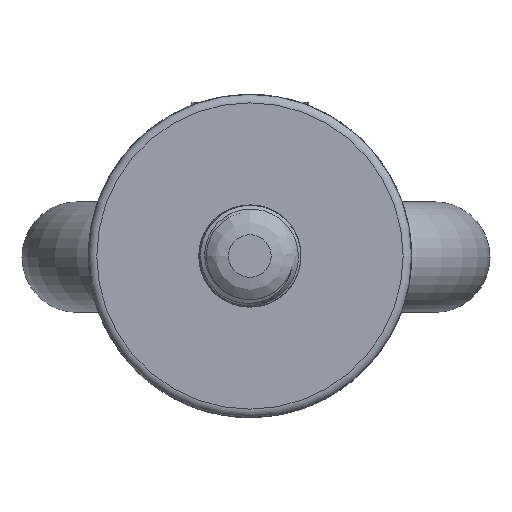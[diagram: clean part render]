
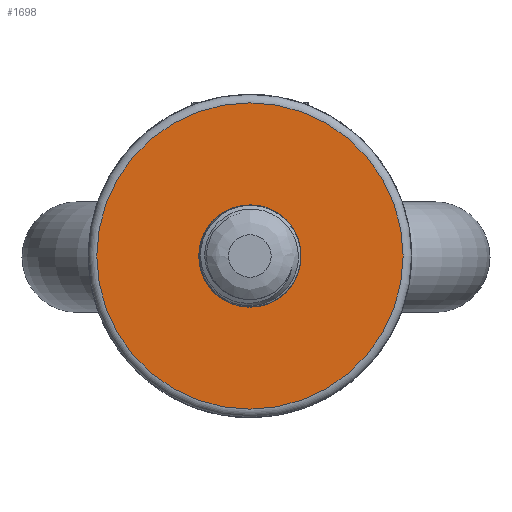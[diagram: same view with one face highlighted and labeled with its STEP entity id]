
A CAD part, front view. The second image highlights one B-rep face of the part: STEP entity #1698.
In plain terms, the highlighted planar face has unit normal (0, -1, 0).
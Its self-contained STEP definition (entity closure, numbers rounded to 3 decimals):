
#199=PLANE('',#5123);
#1698=ADVANCED_FACE('',(#1996,#1997),#199,.F.);
#1996=FACE_BOUND('',#2118,.T.);
#1997=FACE_BOUND('',#2119,.T.);
#2118=EDGE_LOOP('',(#2793));
#2119=EDGE_LOOP('',(#2794));
#2793=ORIENTED_EDGE('',*,*,#4518,.F.);
#2794=ORIENTED_EDGE('',*,*,#4517,.T.);
#4005=VERTEX_POINT('',#8761);
#4006=VERTEX_POINT('',#8764);
#4517=EDGE_CURVE('',#4005,#4005,#4965,.T.);
#4518=EDGE_CURVE('',#4006,#4006,#4966,.T.);
#4965=CIRCLE('',#5120,18.);
#4966=CIRCLE('',#5122,5.8);
#5120=AXIS2_PLACEMENT_3D('',#8760,#5667,#5668);
#5122=AXIS2_PLACEMENT_3D('',#8763,#5671,#5672);
#5123=AXIS2_PLACEMENT_3D('',#8765,#5673,#5674);
#5667=DIRECTION('',(0.,-1.,0.));
#5668=DIRECTION('',(1.,0.,0.));
#5671=DIRECTION('',(0.,-1.,0.));
#5672=DIRECTION('',(1.,0.,0.));
#5673=DIRECTION('',(0.,1.,0.));
#5674=DIRECTION('',(-1.,0.,0.));
#8760=CARTESIAN_POINT('',(0.,5.4,0.));
#8761=CARTESIAN_POINT('',(18.,5.4,0.));
#8763=CARTESIAN_POINT('',(0.,5.4,0.));
#8764=CARTESIAN_POINT('',(5.8,5.4,0.));
#8765=CARTESIAN_POINT('',(18.,5.4,0.));
